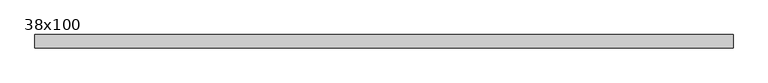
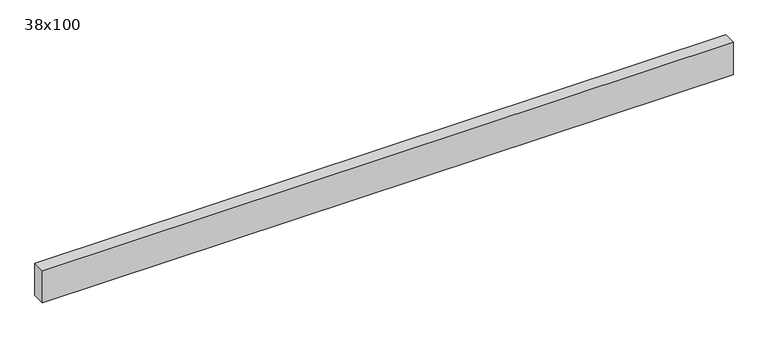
"""IFC4 building model written with IfcOpenShell, lengths in millimetres: beam geometry, Poutre - Bois de construction de dimensions courantes : 38x100."""

from ifc_helpers import new_model, si_unit, frame, origin, place, context, project, spatial, polyline, outline, extrude, source, transform, mapped, element, save


def beam_38x100_94c3ccec(model_context):
    return source(origin(), model_context, "Body", "SweptSolid", [
        extrude(outline(polyline([(990.5, 19.05), (990.5, -19.05), (-1027.5, -19.05), (-1027.5, 19.05), (990.5, 19.05)])), frame((0.0, 0.0, -50.0), z_axis=(0.0, 0.0, 1.0), x_axis=(1.0, 0.0, 0.0)), (0.0, 0.0, 1.0), 100.0),
    ])


if __name__ == "__main__":
    model = new_model("IFC4")
    model_context = context("Model", 3, world=origin())
    ifc_project = project(units=[si_unit("LENGTHUNIT", "METRE", prefix="MILLI")], contexts=[model_context])
    site = spatial("IfcSite", under=ifc_project)
    building = spatial("IfcBuilding", under=site)
    placement = place(None, origin())
    beam_38x100_shape = beam_38x100_94c3ccec(model_context)
    element("IfcBeam", 1, ObjectType="Poutre - Bois de construction de dimensions courantes : 38x100", at=placement, inside=building, context=model_context, shape_type="MappedRepresentation", body=[
        mapped(beam_38x100_shape, transform((0.0, 0.0, 0.0), x_axis=(1.0, 0.0, 0.0), y_axis=(0.0, 1.0, 0.0), z_axis=(0.0, 0.0, 1.0))),
    ])
    save(model, "model.ifc")
